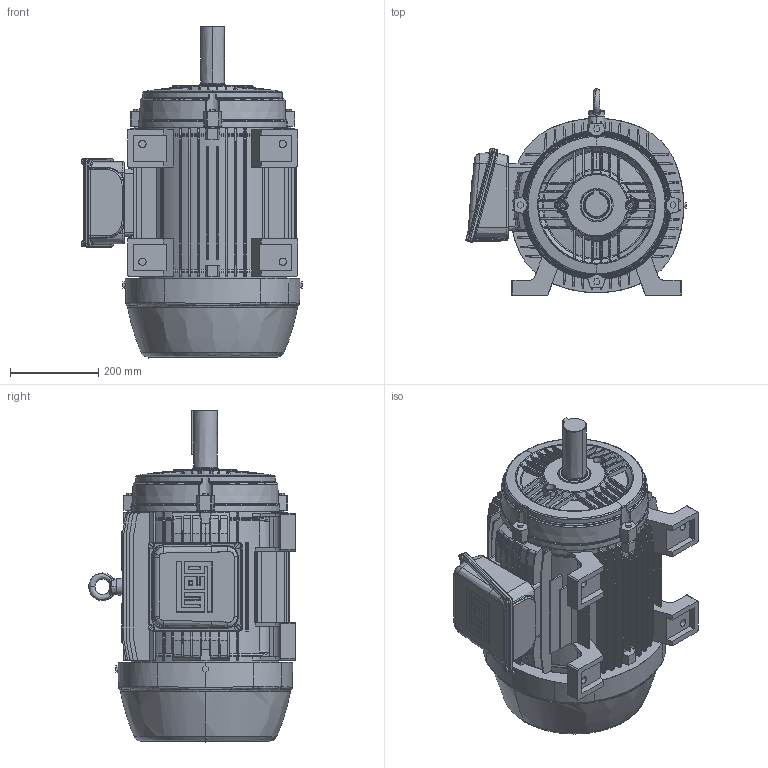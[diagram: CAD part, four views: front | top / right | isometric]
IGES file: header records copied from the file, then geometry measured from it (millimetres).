
Start section: SolidWorks IGES file using analytic representation for surfaces
Global section: file name: Y:\NEMA\W21\14_FRAME_324T\STANDARD\IGS\324T_LEFT.IGS; native system: SolidWorks 2006 by SolidWorks Corporation; preprocessor: SolidWorks 2006 by SolidWorks Corporation; author: ricardov; date: 060807.100151; units: millimetre
Bounding box: 499.24 x 467.2 x 751.2 mm (x, y, z)
Surface area: 1905134.9 mm2 (no closed solid volume)
Topology: 0 solids, 0 shells, 2084 faces, 23403 edges, 23376 vertices
Faces by surface type: bspline 1299, revolution 785
